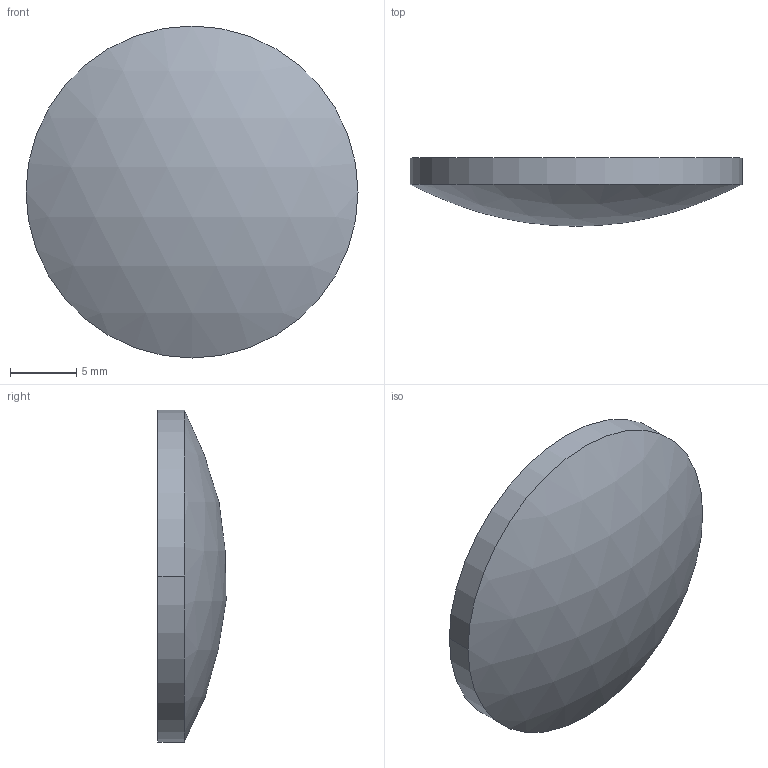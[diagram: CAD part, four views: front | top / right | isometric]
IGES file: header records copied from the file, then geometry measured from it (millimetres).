
Global section: file name: No Iges File Name specified; native system: AutoDesk Inventor R12.0; preprocessor: AutoDesk Inventor Iges Exporter R12.0; author: No Author specified; organization: No Organization specified; date: 20090513.134947; units: millimetre
Bounding box: 25 x 5.13 x 25 mm (x, y, z)
Volume: 1782.2 mm3; surface area: 1170.5 mm2
Topology: 1 solids, 1 shells, 4 faces, 6 edges, 4 vertices
Faces by surface type: cylinder 2, sphere 1, plane 1
